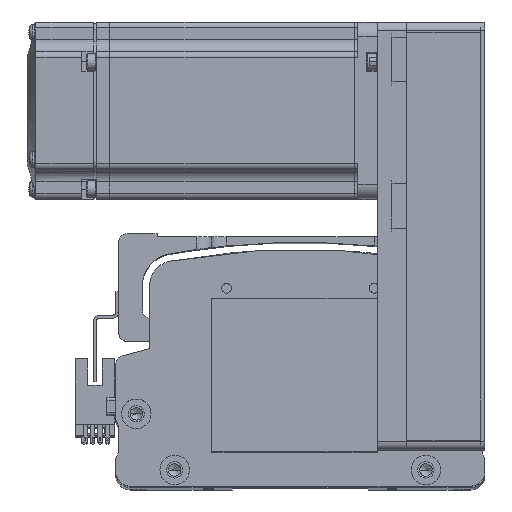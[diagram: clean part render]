
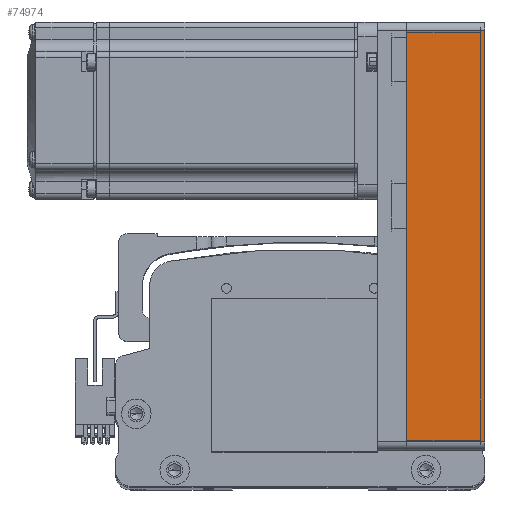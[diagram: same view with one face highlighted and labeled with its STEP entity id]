
A CAD part, top view. The second image highlights one B-rep face of the part: STEP entity #74974.
In plain terms, the highlighted planar face has unit normal (0, 0, 1) as drawn and (0, 1, 0) by its records, which use the part's own axes.
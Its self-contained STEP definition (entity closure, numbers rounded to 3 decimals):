
#1090 = VECTOR ( 'NONE', #30842, 1000. ) ;
#2977 = PLANE ( 'NONE',  #53493 ) ;
#9461 = CARTESIAN_POINT ( 'NONE',  ( 72.5, 30., 26.5 ) ) ;
#10953 = ORIENTED_EDGE ( 'NONE', *, *, #56860, .T. ) ;
#13543 = CARTESIAN_POINT ( 'NONE',  ( 69.5, 30., 0. ) ) ;
#15729 = DIRECTION ( 'NONE',  ( 1., 0., 0. ) ) ;
#17547 = LINE ( 'NONE', #55452, #1090 ) ;
#24162 = VERTEX_POINT ( 'NONE', #53063 ) ;
#26085 = DIRECTION ( 'NONE',  ( -1., 0., 0. ) ) ;
#27725 = VERTEX_POINT ( 'NONE', #73053 ) ;
#30182 = EDGE_CURVE ( 'NONE', #65351, #24162, #30666, .T. ) ;
#30666 = LINE ( 'NONE', #63281, #61725 ) ;
#30842 = DIRECTION ( 'NONE',  ( -1., 0., 0. ) ) ;
#37718 = ORIENTED_EDGE ( 'NONE', *, *, #63064, .T. ) ;
#38671 = CARTESIAN_POINT ( 'NONE',  ( 69.5, 30., 26.5 ) ) ;
#40114 = CARTESIAN_POINT ( 'NONE',  ( 69.5, 30., 26.5 ) ) ;
#41495 = FACE_OUTER_BOUND ( 'NONE', #48339, .T. ) ;
#41532 = DIRECTION ( 'NONE',  ( 0., 0., 1. ) ) ;
#42301 = LINE ( 'NONE', #78902, #60815 ) ;
#48339 = EDGE_LOOP ( 'NONE', ( #37718, #76552, #77168, #10953 ) ) ;
#52793 = DIRECTION ( 'NONE',  ( 0., -1., 0. ) ) ;
#53063 = CARTESIAN_POINT ( 'NONE',  ( -69.5, 30., 26.5 ) ) ;
#53493 = AXIS2_PLACEMENT_3D ( 'NONE', #9461, #52793, #15729 ) ;
#54343 = VECTOR ( 'NONE', #63723, 1000. ) ;
#55452 = CARTESIAN_POINT ( 'NONE',  ( 72.5, 30., 0. ) ) ;
#56860 = EDGE_CURVE ( 'NONE', #65351, #58416, #70957, .T. ) ;
#58416 = VERTEX_POINT ( 'NONE', #13543 ) ;
#60815 = VECTOR ( 'NONE', #41532, 1000. ) ;
#61725 = VECTOR ( 'NONE', #26085, 1000. ) ;
#63064 = EDGE_CURVE ( 'NONE', #58416, #27725, #17547, .T. ) ;
#63281 = CARTESIAN_POINT ( 'NONE',  ( 72.5, 30., 26.5 ) ) ;
#63723 = DIRECTION ( 'NONE',  ( 0., 0., -1. ) ) ;
#64842 = EDGE_CURVE ( 'NONE', #27725, #24162, #42301, .T. ) ;
#65351 = VERTEX_POINT ( 'NONE', #40114 ) ;
#70957 = LINE ( 'NONE', #38671, #54343 ) ;
#73053 = CARTESIAN_POINT ( 'NONE',  ( -69.5, 30., 0. ) ) ;
#74974 = ADVANCED_FACE ( 'NONE', ( #41495 ), #2977, .F. ) ;
#76552 = ORIENTED_EDGE ( 'NONE', *, *, #64842, .T. ) ;
#77168 = ORIENTED_EDGE ( 'NONE', *, *, #30182, .F. ) ;
#78902 = CARTESIAN_POINT ( 'NONE',  ( -69.5, 30., 26.5 ) ) ;
